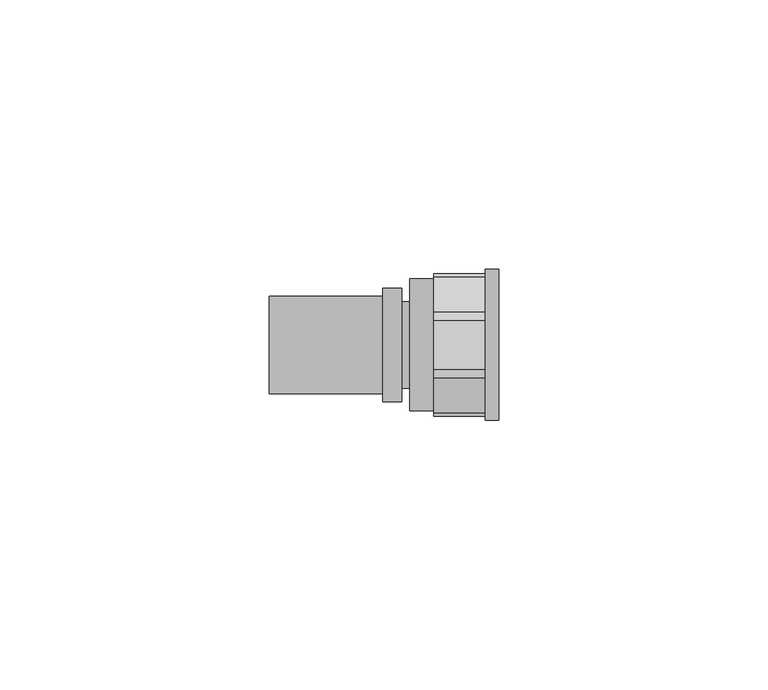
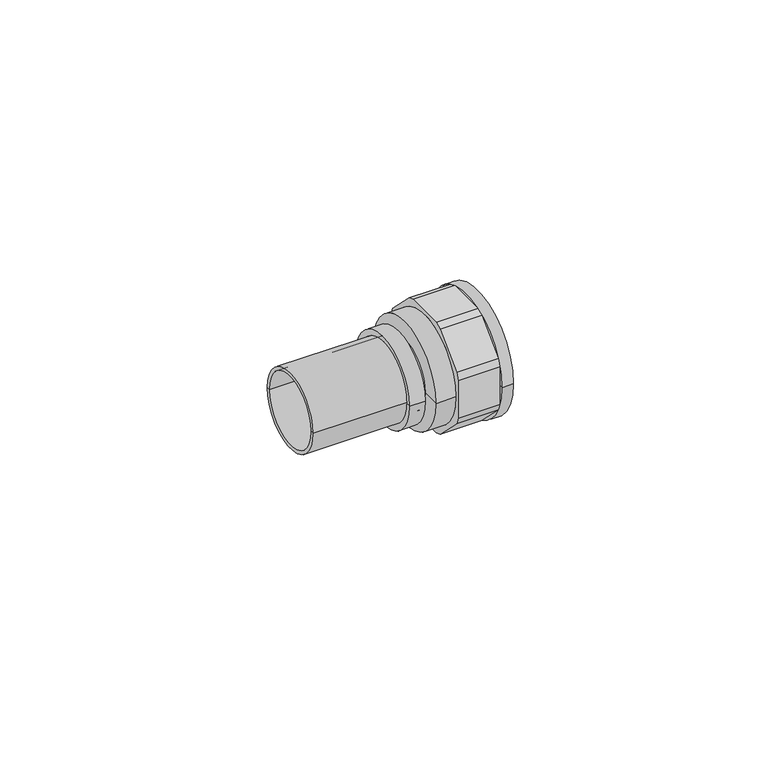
"""IFC4 building model written with IfcOpenShell, lengths in millimetres: pipe fitting geometry, Astra Gás - Conexão Fixa Fêmea - GRH : Astra Gás - Conexão Fixa Fêmea - GRH."""

from ifc_helpers import new_model, si_unit, frame, origin, place, context, project, spatial, polyline, circle_curve, source, transform, mapped, element, save
from ifc_brep_helpers import plane_surface, cylinder_surface, revolved_surface, advanced_brep


def pipe_fitting_c3ae606e(model_context):
    return source(origin(), model_context, "Body", "AdvancedBrep", [
        advanced_brep(
        [(-26.0, -9.05, 0.0), (-26.0, 9.05, 0.0), (-2.5, 9.05, 0.0), (-2.5, -9.05, 0.0), (-26.0, -8.25, 0.0), (-26.0, 8.25, 0.0), (-2.5, -8.25, 0.0), (-2.5, 8.25, 0.0)],
        [
            (0, 1, circle_curve(frame((-26.0, 0.0, 0.0), z_axis=(1.0, 0.0, 0.0), x_axis=(0.0, 1.0, 0.0)), 9.05)),
            (1, 2),
            (2, 3, circle_curve(frame((-2.5, 0.0, 0.0), z_axis=(-1.0, 0.0, 0.0), x_axis=(0.0, 1.0, 0.0)), 9.05)),
            (3, 0),
            (1, 0, circle_curve(frame((-26.0, 0.0, 0.0), z_axis=(1.0, 0.0, 0.0), x_axis=(0.0, 1.0, 0.0)), 9.05)),
            (3, 2, circle_curve(frame((-2.5, 0.0, 0.0), z_axis=(-1.0, 0.0, 0.0), x_axis=(0.0, 1.0, 0.0)), 9.05)),
            (4, 5, circle_curve(frame((-26.0, 0.0, 0.0), z_axis=(1.0, 0.0, 0.0), x_axis=(0.0, 1.0, 0.0)), 8.25)),
            (5, 1),
            (0, 4),
            (5, 4, circle_curve(frame((-26.0, 0.0, 0.0), z_axis=(1.0, 0.0, 0.0), x_axis=(0.0, 1.0, 0.0)), 8.25)),
            (6, 7, circle_curve(frame((-2.5, 0.0, 0.0), z_axis=(1.0, 0.0, 0.0), x_axis=(0.0, 1.0, 0.0)), 8.25)),
            (7, 5),
            (4, 6),
            (7, 6, circle_curve(frame((-2.5, 0.0, 0.0), z_axis=(1.0, 0.0, 0.0), x_axis=(0.0, 1.0, 0.0)), 8.25)),
            (2, 7),
            (6, 3),
        ],
        [
            cylinder_surface(frame((-26.0, 0.0, 0.0), z_axis=(-1.0, 0.0, 0.0), x_axis=(0.0, 1.0, 0.0)), 9.05),
            plane_surface(frame((-26.0, 0.0, 0.0), z_axis=(-1.0, 0.0, 0.0), x_axis=(0.0, 1.0, 0.0))),
            revolved_surface(polyline([(-26.0, 8.25, 0.0), (-2.5, 8.25, 0.0)]), (-26.0, 0.0, 0.0), (-1.0, 0.0, 0.0)),
            plane_surface(frame((-2.5, 0.0, 0.0), z_axis=(1.0, 0.0, 0.0), x_axis=(0.0, 1.0, 0.0))),
        ],
        [
            (0, [[1, 2, 3, 4]]),
            (0, [[5, -4, 6, -2]]),
            (1, [[7, 8, -1, 9]]),
            (1, [[10, -9, -5, -8]]),
            (2, [[11, 12, -7, 13]]),
            (2, [[14, -13, -10, -12]]),
            (3, [[-3, 15, -11, 16]]),
            (3, [[-6, -16, -14, -15]]),
        ],
    ),
        advanced_brep(
        [(-2.5, -9.05, 0.0), (-2.5, 9.05, 0.0), (-5.0, 9.05, 0.0), (-5.0, -9.05, 0.0), (-2.5, 0.0, 0.0), (0.0, -8.0, 0.0), (0.0, 8.0, 0.0), (0.0, 0.0, 0.0), (-1.5, -8.0, 0.0), (-1.5, 8.0, 0.0), (-1.5, -10.5, 0.0), (-1.5, 10.5, 0.0), (-5.0, -10.5, 0.0), (-5.0, 10.5, 0.0)],
        [
            (0, 1, circle_curve(frame((-2.5, 0.0, 0.0), z_axis=(1.0, 0.0, 0.0), x_axis=(0.0, 1.0, 0.0)), 9.05)),
            (1, 2),
            (2, 3, circle_curve(frame((-5.0, 0.0, 0.0), z_axis=(-1.0, 0.0, 0.0), x_axis=(0.0, 1.0, 0.0)), 9.05)),
            (3, 0),
            (1, 0, circle_curve(frame((-2.5, 0.0, 0.0), z_axis=(1.0, 0.0, 0.0), x_axis=(0.0, 1.0, 0.0)), 9.05)),
            (3, 2, circle_curve(frame((-5.0, 0.0, 0.0), z_axis=(-1.0, 0.0, 0.0), x_axis=(0.0, 1.0, 0.0)), 9.05)),
            (4, 1),
            (0, 4),
            (5, 6, circle_curve(frame((0.0, 0.0, 0.0), z_axis=(1.0, 0.0, 0.0), x_axis=(0.0, 1.0, 0.0)), 8.0)),
            (6, 7),
            (7, 5),
            (6, 5, circle_curve(frame((0.0, 0.0, 0.0), z_axis=(1.0, 0.0, 0.0), x_axis=(0.0, 1.0, 0.0)), 8.0)),
            (8, 9, circle_curve(frame((-1.5, 0.0, 0.0), z_axis=(1.0, 0.0, 0.0), x_axis=(0.0, 1.0, 0.0)), 8.0)),
            (9, 6),
            (5, 8),
            (9, 8, circle_curve(frame((-1.5, 0.0, 0.0), z_axis=(1.0, 0.0, 0.0), x_axis=(0.0, 1.0, 0.0)), 8.0)),
            (10, 11, circle_curve(frame((-1.5, 0.0, 0.0), z_axis=(1.0, 0.0, 0.0), x_axis=(0.0, 1.0, 0.0)), 10.5)),
            (11, 9),
            (8, 10),
            (11, 10, circle_curve(frame((-1.5, 0.0, 0.0), z_axis=(1.0, 0.0, 0.0), x_axis=(0.0, 1.0, 0.0)), 10.5)),
            (12, 13, circle_curve(frame((-5.0, 0.0, 0.0), z_axis=(1.0, 0.0, 0.0), x_axis=(0.0, 1.0, 0.0)), 10.5)),
            (13, 11),
            (10, 12),
            (13, 12, circle_curve(frame((-5.0, 0.0, 0.0), z_axis=(1.0, 0.0, 0.0), x_axis=(0.0, 1.0, 0.0)), 10.5)),
            (2, 13),
            (12, 3),
        ],
        [
            revolved_surface(polyline([(-5.0, 9.05, 0.0), (-2.5, 9.05, 0.0)]), (-5.0, 0.0, 0.0), (-1.0, 0.0, 0.0)),
            plane_surface(frame((-2.5, 0.0, 0.0), z_axis=(-1.0, 0.0, 0.0), x_axis=(0.0, 1.0, 0.0))),
            plane_surface(frame((0.0, 0.0, 0.0), z_axis=(1.0, 0.0, 0.0), x_axis=(0.0, 1.0, 0.0))),
            cylinder_surface(frame((-5.0, 0.0, 0.0), z_axis=(-1.0, 0.0, 0.0), x_axis=(0.0, 1.0, 0.0)), 8.0),
            plane_surface(frame((-1.5, 0.0, 0.0), z_axis=(1.0, 0.0, 0.0), x_axis=(0.0, 1.0, 0.0))),
            cylinder_surface(frame((-5.0, 0.0, 0.0), z_axis=(-1.0, 0.0, 0.0), x_axis=(0.0, 1.0, 0.0)), 10.5),
            plane_surface(frame((-5.0, 0.0, 0.0), z_axis=(-1.0, 0.0, 0.0), x_axis=(0.0, 1.0, 0.0))),
        ],
        [
            (0, [[1, 2, 3, 4]]),
            (0, [[5, -4, 6, -2]]),
            (1, [[7, -1, 8]]),
            (1, [[-8, -5, -7]]),
            (2, [[9, 10, 11]]),
            (2, [[12, -11, -10]]),
            (3, [[13, 14, -9, 15]]),
            (3, [[16, -15, -12, -14]]),
            (4, [[17, 18, -13, 19]]),
            (4, [[20, -19, -16, -18]]),
            (5, [[21, 22, -17, 23]]),
            (5, [[24, -23, -20, -22]]),
            (6, [[-3, 25, -21, 26]]),
            (6, [[-6, -26, -24, -25]]),
        ],
    ),
        advanced_brep(
        [(14.0, 14.0, 0.0), (16.5, 14.0, 0.0), (16.5, -14.0, 0.0), (14.0, -14.0, 0.0), (14.0, -13.25, -4.5207853), (14.0, -12.5658428, -6.1724869), (14.0, -6.1724869, -12.5658428), (14.0, -4.5207853, -13.25), (14.0, 4.5207853, -13.25), (14.0, 6.1724869, -12.5658428), (14.0, 12.5658428, -6.1724869), (14.0, 13.25, -4.5207853), (14.0, 13.25, 4.5207853), (14.0, 12.5658428, 6.1724869), (14.0, 6.1724869, 12.5658428), (14.0, 4.5207853, 13.25), (14.0, -4.5207853, 13.25), (14.0, -6.1724869, 12.5658428), (14.0, -12.5658428, 6.1724869), (14.0, -13.25, 4.5207853), (14.0, -13.25, 0.0), (14.0, 13.25, 0.0), (16.5, 9.315, 0.0), (16.5, -9.315, 0.0), (3.8, 0.0, 0.0), (3.8, -9.315, 0.0), (3.8, 9.315, 0.0), (4.49, -12.5658428, 6.1724869), (4.49, -6.1724869, 12.5658428), (4.49, -4.5207853, 13.25), (4.49, 4.5207853, 13.25), (4.49, 6.1724869, 12.5658428), (4.49, 12.5658428, 6.1724869), (4.49, 13.25, 4.5207853), (4.49, 13.25, -4.5207853), (4.49, 12.5658428, -6.1724869), (4.49, 6.1724869, -12.5658428), (4.49, 4.5207853, -13.25), (4.49, -4.5207853, -13.25), (4.49, -6.1724869, -12.5658428), (4.49, -12.5658428, -6.1724869), (4.49, -13.25, -4.5207853), (4.49, -13.25, 4.5207853), (4.49, -12.25, 0.0), (4.49, 12.25, 0.0), (0.0, -12.25, 0.0), (0.0, 12.25, 0.0), (0.0, 0.0, 0.0)],
        [
            (0, 1),
            (1, 2, circle_curve(frame((16.5, 0.0, 0.0), z_axis=(-1.0, 0.0, 0.0), x_axis=(0.0, 1.0, 0.0)), 14.0)),
            (2, 3),
            (3, 4, circle_curve(frame((14.0, 0.0, 0.0), z_axis=(1.0, 0.0, 0.0), x_axis=(0.0, 1.0, 0.0)), 14.0)),
            (4, 5, circle_curve(frame((14.0, 0.0, 0.0), z_axis=(1.0, 0.0, 0.0), x_axis=(0.0, 1.0, 0.0)), 14.0)),
            (5, 6, circle_curve(frame((14.0, 0.0, 0.0), z_axis=(1.0, 0.0, 0.0), x_axis=(0.0, 1.0, 0.0)), 14.0)),
            (6, 7, circle_curve(frame((14.0, 0.0, 0.0), z_axis=(1.0, 0.0, 0.0), x_axis=(0.0, 1.0, 0.0)), 14.0)),
            (7, 8, circle_curve(frame((14.0, 0.0, 0.0), z_axis=(1.0, 0.0, 0.0), x_axis=(0.0, 1.0, 0.0)), 14.0)),
            (8, 9, circle_curve(frame((14.0, 0.0, 0.0), z_axis=(1.0, 0.0, 0.0), x_axis=(0.0, 1.0, 0.0)), 14.0)),
            (9, 10, circle_curve(frame((14.0, 0.0, 0.0), z_axis=(1.0, 0.0, 0.0), x_axis=(0.0, 1.0, 0.0)), 14.0)),
            (10, 11, circle_curve(frame((14.0, 0.0, 0.0), z_axis=(1.0, 0.0, 0.0), x_axis=(0.0, 1.0, 0.0)), 14.0)),
            (11, 0, circle_curve(frame((14.0, 0.0, 0.0), z_axis=(1.0, 0.0, 0.0), x_axis=(0.0, 1.0, 0.0)), 14.0)),
            (0, 12, circle_curve(frame((14.0, 0.0, 0.0), z_axis=(1.0, 0.0, 0.0), x_axis=(0.0, 1.0, 0.0)), 14.0)),
            (12, 13, circle_curve(frame((14.0, 0.0, 0.0), z_axis=(1.0, 0.0, 0.0), x_axis=(0.0, 1.0, 0.0)), 14.0)),
            (13, 14, circle_curve(frame((14.0, 0.0, 0.0), z_axis=(1.0, 0.0, 0.0), x_axis=(0.0, 1.0, 0.0)), 14.0)),
            (14, 15, circle_curve(frame((14.0, 0.0, 0.0), z_axis=(1.0, 0.0, 0.0), x_axis=(0.0, 1.0, 0.0)), 14.0)),
            (15, 16, circle_curve(frame((14.0, 0.0, 0.0), z_axis=(1.0, 0.0, 0.0), x_axis=(0.0, 1.0, 0.0)), 14.0)),
            (16, 17, circle_curve(frame((14.0, 0.0, 0.0), z_axis=(1.0, 0.0, 0.0), x_axis=(0.0, 1.0, 0.0)), 14.0)),
            (17, 18, circle_curve(frame((14.0, 0.0, 0.0), z_axis=(1.0, 0.0, 0.0), x_axis=(0.0, 1.0, 0.0)), 14.0)),
            (18, 19, circle_curve(frame((14.0, 0.0, 0.0), z_axis=(1.0, 0.0, 0.0), x_axis=(0.0, 1.0, 0.0)), 14.0)),
            (19, 3, circle_curve(frame((14.0, 0.0, 0.0), z_axis=(1.0, 0.0, 0.0), x_axis=(0.0, 1.0, 0.0)), 14.0)),
            (2, 1, circle_curve(frame((16.5, 0.0, 0.0), z_axis=(-1.0, 0.0, 0.0), x_axis=(0.0, 1.0, 0.0)), 14.0)),
            (3, 20),
            (20, 4),
            (5, 6),
            (7, 8),
            (9, 10),
            (11, 21),
            (21, 0),
            (21, 12),
            (13, 14),
            (15, 16),
            (17, 18),
            (19, 20),
            (1, 22),
            (22, 23, circle_curve(frame((16.5, 0.0, 0.0), z_axis=(-1.0, 0.0, 0.0), x_axis=(0.0, 1.0, 0.0)), 9.315)),
            (23, 2),
            (23, 22, circle_curve(frame((16.5, 0.0, 0.0), z_axis=(-1.0, 0.0, 0.0), x_axis=(0.0, 1.0, 0.0)), 9.315)),
            (24, 25),
            (25, 26, circle_curve(frame((3.8, 0.0, 0.0), z_axis=(1.0, 0.0, 0.0), x_axis=(0.0, 1.0, 0.0)), 9.315)),
            (26, 24),
            (26, 25, circle_curve(frame((3.8, 0.0, 0.0), z_axis=(1.0, 0.0, 0.0), x_axis=(0.0, 1.0, 0.0)), 9.315)),
            (25, 23),
            (22, 26),
            (27, 28),
            (28, 29, circle_curve(frame((4.49, 0.0, 0.0), z_axis=(-1.0, 0.0, 0.0), x_axis=(0.0, 1.0, 0.0)), 14.0)),
            (29, 30),
            (30, 31, circle_curve(frame((4.49, 0.0, 0.0), z_axis=(-1.0, 0.0, 0.0), x_axis=(0.0, 1.0, 0.0)), 14.0)),
            (31, 32),
            (32, 33, circle_curve(frame((4.49, 0.0, 0.0), z_axis=(-1.0, 0.0, 0.0), x_axis=(0.0, 1.0, 0.0)), 14.0)),
            (33, 34),
            (34, 35, circle_curve(frame((4.49, 0.0, 0.0), z_axis=(-1.0, 0.0, 0.0), x_axis=(0.0, 1.0, 0.0)), 14.0)),
            (35, 36),
            (36, 37, circle_curve(frame((4.49, 0.0, 0.0), z_axis=(-1.0, 0.0, 0.0), x_axis=(0.0, 1.0, 0.0)), 14.0)),
            (37, 38),
            (38, 39, circle_curve(frame((4.49, 0.0, 0.0), z_axis=(-1.0, 0.0, 0.0), x_axis=(0.0, 1.0, 0.0)), 14.0)),
            (39, 40),
            (40, 41, circle_curve(frame((4.49, 0.0, 0.0), z_axis=(-1.0, 0.0, 0.0), x_axis=(0.0, 1.0, 0.0)), 14.0)),
            (41, 42),
            (42, 27, circle_curve(frame((4.49, 0.0, 0.0), z_axis=(-1.0, 0.0, 0.0), x_axis=(0.0, 1.0, 0.0)), 14.0)),
            (43, 44, circle_curve(frame((4.49, 0.0, 0.0), z_axis=(1.0, 0.0, 0.0), x_axis=(0.0, 1.0, 0.0)), 12.25)),
            (44, 43, circle_curve(frame((4.49, 0.0, 0.0), z_axis=(1.0, 0.0, 0.0), x_axis=(0.0, 1.0, 0.0)), 12.25)),
            (41, 4),
            (19, 42),
            (39, 6),
            (5, 40),
            (37, 8),
            (7, 38),
            (35, 10),
            (9, 36),
            (33, 12),
            (11, 34),
            (31, 14),
            (13, 32),
            (29, 16),
            (15, 30),
            (27, 18),
            (17, 28),
            (45, 46, circle_curve(frame((0.0, 0.0, 0.0), z_axis=(1.0, 0.0, 0.0), x_axis=(0.0, 1.0, 0.0)), 12.25)),
            (46, 44),
            (43, 45),
            (46, 45, circle_curve(frame((0.0, 0.0, 0.0), z_axis=(1.0, 0.0, 0.0), x_axis=(0.0, 1.0, 0.0)), 12.25)),
            (45, 47),
            (47, 46),
        ],
        [
            cylinder_surface(frame((16.5, 0.0, 0.0), z_axis=(-1.0, 0.0, 0.0), x_axis=(0.0, 1.0, 0.0)), 14.0),
            plane_surface(frame((14.0, 0.0, 0.0), z_axis=(-1.0, 0.0, 0.0), x_axis=(0.0, 1.0, 0.0))),
            plane_surface(frame((16.5, 0.0, 0.0), z_axis=(1.0, 0.0, 0.0), x_axis=(0.0, 1.0, 0.0))),
            plane_surface(frame((3.8, 0.0, 0.0), z_axis=(1.0, 0.0, 0.0), x_axis=(0.0, 1.0, 0.0))),
            revolved_surface(polyline([(3.8, 9.315, 0.0), (16.5, 9.315, 0.0)]), (0.0, 0.0, 0.0), (-1.0, 0.0, 0.0)),
            plane_surface(frame((4.49, -13.25, 5.4883297), z_axis=(-1.0, 0.0, 0.0), x_axis=(0.0, 0.0, 1.0))),
            plane_surface(frame((14.0, -13.25, 5.4883297), z_axis=(0.0, -1.0, 0.0), x_axis=(-1.0, 0.0, 0.0))),
            plane_surface(frame((14.0, -13.25, -5.4883297), z_axis=(0.0, -0.7071067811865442, -0.7071067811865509), x_axis=(-1.0, 0.0, 0.0))),
            plane_surface(frame((14.0, -5.4883297, -13.25), z_axis=(0.0, 0.0, -1.0), x_axis=(-1.0, 0.0, 0.0))),
            plane_surface(frame((14.0, 5.4883297, -13.25), z_axis=(0.0, 0.7071067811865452, -0.7071067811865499), x_axis=(-1.0, 0.0, 0.0))),
            plane_surface(frame((14.0, 13.25, -5.4883297), z_axis=(0.0, 1.0, 0.0), x_axis=(-1.0, 0.0, 0.0))),
            plane_surface(frame((14.0, 13.25, 5.4883297), z_axis=(0.0, 0.7071067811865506, 0.7071067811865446), x_axis=(-1.0, 0.0, 0.0))),
            plane_surface(frame((14.0, 5.4883297, 13.25), z_axis=(0.0, 0.0, 1.0), x_axis=(-1.0, 0.0, 0.0))),
            plane_surface(frame((14.0, -5.4883297, 13.25), z_axis=(0.0, -0.7071067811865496, 0.7071067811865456), x_axis=(-1.0, 0.0, 0.0))),
            cylinder_surface(frame((14.0, 0.0, 0.0), z_axis=(-1.0, 0.0, 0.0), x_axis=(0.0, 1.0, 0.0)), 14.0),
            cylinder_surface(frame((0.0, 0.0, 0.0), z_axis=(-1.0, 0.0, 0.0), x_axis=(0.0, 1.0, 0.0)), 12.25),
            plane_surface(frame((0.0, 0.0, 0.0), z_axis=(-1.0, 0.0, 0.0), x_axis=(0.0, 1.0, 0.0))),
        ],
        [
            (0, [[1, 2, 3, 4, 5, 6, 7, 8, 9, 10, 11, 12]]),
            (0, [[-1, 13, 14, 15, 16, 17, 18, 19, 20, 21, -3, 22]]),
            (1, [[-4, 23, 24]]),
            (1, [[-6, 25]]),
            (1, [[-8, 26]]),
            (1, [[-10, 27]]),
            (1, [[-12, 28, 29]]),
            (1, [[-13, -29, 30]]),
            (1, [[-15, 31]]),
            (1, [[-17, 32]]),
            (1, [[-19, 33]]),
            (1, [[-21, 34, -23]]),
            (2, [[-2, 35, 36, 37]]),
            (2, [[-22, -37, 38, -35]]),
            (3, [[39, 40, 41]]),
            (3, [[-39, -41, 42]]),
            (4, [[-40, 43, -36, 44]]),
            (4, [[-42, -44, -38, -43]]),
            (5, [[45, 46, 47, 48, 49, 50, 51, 52, 53, 54, 55, 56, 57, 58, 59, 60], [61, 62]]),
            (6, [[-59, 63, -24, -34, 64]]),
            (7, [[-57, 65, -25, 66]]),
            (8, [[-55, 67, -26, 68]]),
            (9, [[-53, 69, -27, 70]]),
            (10, [[-51, 71, -30, -28, 72]]),
            (11, [[-49, 73, -31, 74]]),
            (12, [[-47, 75, -32, 76]]),
            (13, [[-45, 77, -33, 78]]),
            (14, [[-52, -72, -11, -69]]),
            (14, [[-54, -70, -9, -67]]),
            (14, [[-56, -68, -7, -65]]),
            (14, [[-58, -66, -5, -63]]),
            (14, [[-46, -78, -18, -75]]),
            (14, [[-48, -76, -16, -73]]),
            (14, [[-50, -74, -14, -71]]),
            (14, [[-60, -64, -20, -77]]),
            (15, [[79, 80, -61, 81]]),
            (15, [[-80, 82, -81, -62]]),
            (16, [[-79, 83, 84]]),
            (16, [[-82, -84, -83]]),
        ],
    ),
    ])


if __name__ == "__main__":
    model = new_model("IFC4")
    model_context = context("Model", 3, world=origin())
    ifc_project = project(units=[si_unit("LENGTHUNIT", "METRE", prefix="MILLI")], contexts=[model_context])
    site = spatial("IfcSite", under=ifc_project)
    building = spatial("IfcBuilding", under=site)
    placement = place(None, origin())
    pipe_fitting_shape = pipe_fitting_c3ae606e(model_context)
    element("IfcPipeFitting", 1, ObjectType="Astra Gás - Conexão Fixa Fêmea - GRH : Astra Gás - Conexão Fixa Fêmea - GRH", at=placement, inside=building, context=model_context, shape_type="MappedRepresentation", body=[
        mapped(pipe_fitting_shape, transform((0.0, 0.0, 0.0), x_axis=(1.0, 0.0, 0.0), y_axis=(0.0, 1.0, 0.0), z_axis=(0.0, 0.0, 1.0))),
    ])
    save(model, "model.ifc")
